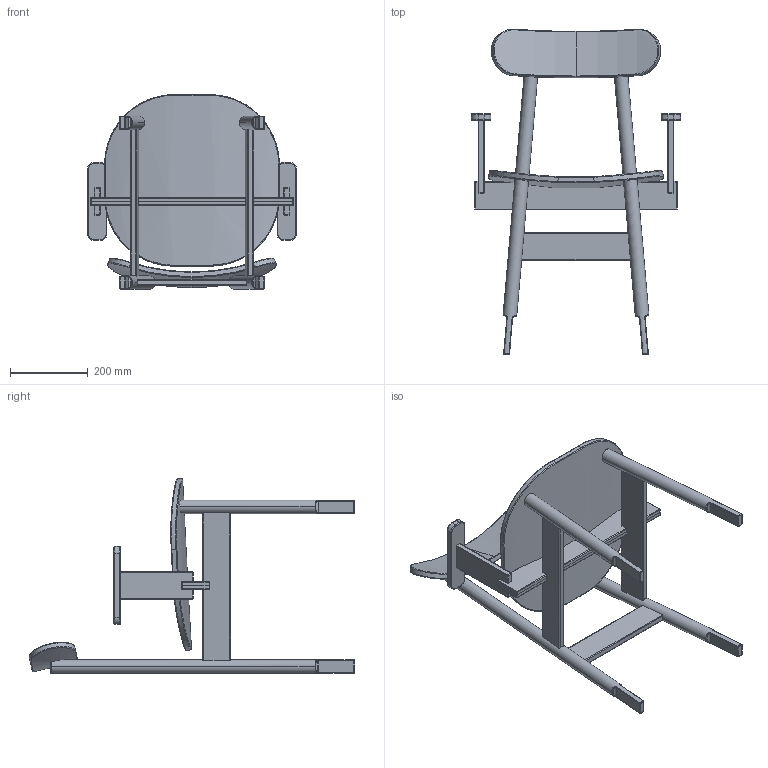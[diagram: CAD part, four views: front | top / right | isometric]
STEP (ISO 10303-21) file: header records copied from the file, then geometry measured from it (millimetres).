
FILE_DESCRIPTION (( 'STEP AP203' ), '1' );
FILE_NAME ('DINER CHAIR.STEP', '2025-08-29T08:51:37', ( '' ), ( '' ), 'SwSTEP 2.0', 'SolidWorks 2025', '' );
FILE_SCHEMA (( 'CONFIG_CONTROL_DESIGN' ));
Length unit declared in the file: millimetre
Products named in the file (2): DINER CHAIR; Group1^stolica DINER_defeature
Assembly tree (1 placements, depth 2):
  DINER CHAIR
    Group1^stolica DINER_defeature
Bounding box: 536 x 834.97 x 499.34 mm (x, y, z)
Volume: 8004297.6 mm3; surface area: 1090438.2 mm2
Topology: 1 solids, 1 shells, 382 faces, 931 edges, 530 vertices
Faces by surface type: cylinder 142, plane 118, bspline 54, torus 36, sphere 32
Entity records: 18003 total; most frequent: CARTESIAN_POINT 9507, ORIENTED_EDGE 1806, DIRECTION 1681, EDGE_CURVE 903, AXIS2_PLACEMENT_3D 636, VERTEX_POINT 526, LINE 409, VECTOR 409
